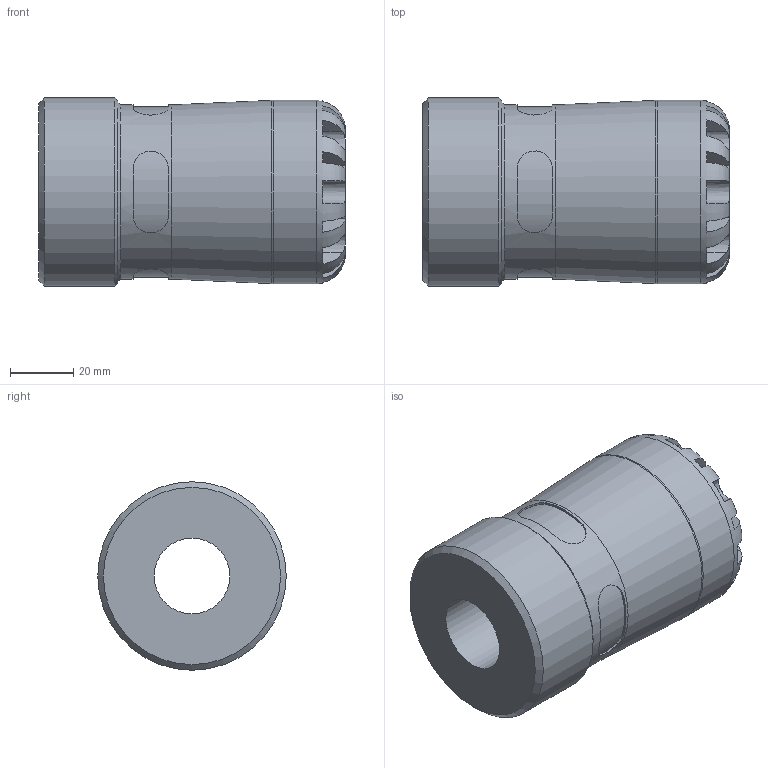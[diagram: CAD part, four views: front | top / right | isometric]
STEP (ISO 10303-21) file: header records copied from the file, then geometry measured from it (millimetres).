
FILE_DESCRIPTION(/* description */ ('PLASSON MALE ADAPTOR 32X2" SERIES 1'),/* implementation_level */ '2;1');
FILE_NAME(/* name */ 'C:\Dropbox\KIMPROJECTS-Inventor\99-16-3568-Processing\S1\1002\100200032020_190200032020.ipt.stp',/* time_stamp */ '2017-07-27T14:39:27+03:00',/* author */ ('KIM'),/* organization */ (''),/* preprocessor_version */ 'ST-DEVELOPER v15.6',/* originating_system */ 'Autodesk Inventor 2015',/* authorisation */ '');
FILE_SCHEMA (('AUTOMOTIVE_DESIGN { 1 0 10303 214 3 1 1 }'));
Length unit declared in the file: millimetre
Products named in the file (1): 100200032020_190200032020
Bounding box: 97 x 59.61 x 59.61 mm (x, y, z)
Volume: 179671.8 mm3; surface area: 31660.9 mm2
Topology: 1 solids, 1 shells, 100 faces, 247 edges, 154 vertices
Faces by surface type: plane 60, cylinder 33, torus 5, cone 2
Full cylindrical faces by diameter (mm): 24 x1, 32 x1, 55.1 x1, 58 x1, 59.614 x1
Entity records: 3672 total; most frequent: CARTESIAN_POINT 1405, ORIENTED_EDGE 462, DIRECTION 456, EDGE_CURVE 231, AXIS2_PLACEMENT_3D 188, VERTEX_POINT 151, EDGE_LOOP 120, FACE_OUTER_BOUND 100
